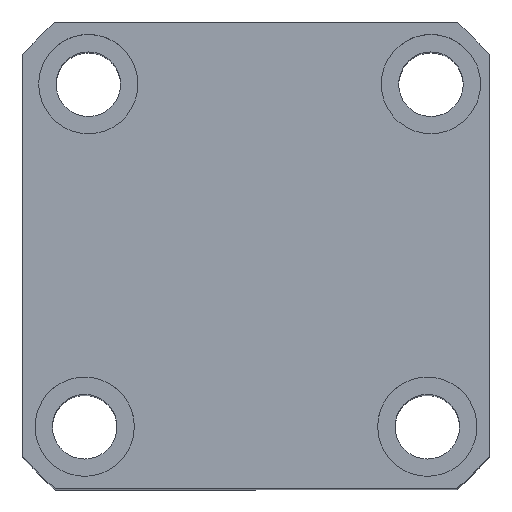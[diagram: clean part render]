
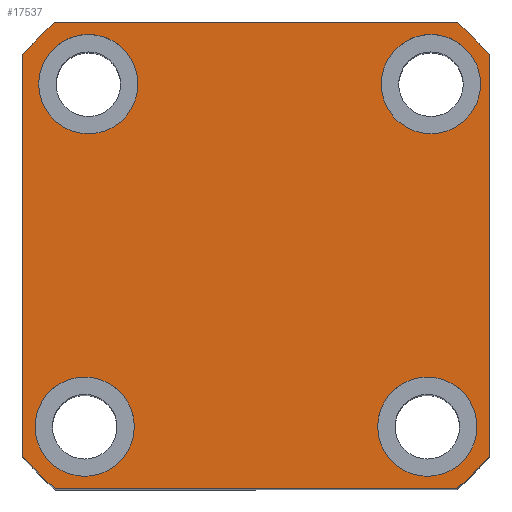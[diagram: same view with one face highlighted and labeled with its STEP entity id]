
A CAD part, top view. The second image highlights one B-rep face of the part: STEP entity #17537.
In plain terms, the highlighted planar face has unit normal (0, 0, 1) as drawn and (0, 0, -1) by its records, which use the part's own axes.
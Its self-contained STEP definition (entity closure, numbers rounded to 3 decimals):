
#70 = AXIS2_PLACEMENT_3D ( 'NONE', #3379, #15541, #5132 ) ;
#771 = VERTEX_POINT ( 'NONE', #9281 ) ;
#806 = PLANE ( 'NONE',  #5293 ) ;
#825 = EDGE_LOOP ( 'NONE', ( #16089, #3850 ) ) ;
#891 = ORIENTED_EDGE ( 'NONE', *, *, #21718, .F. ) ;
#913 = ORIENTED_EDGE ( 'NONE', *, *, #21403, .F. ) ;
#972 = DIRECTION ( 'NONE',  ( -1., 0., 0. ) ) ;
#1097 = AXIS2_PLACEMENT_3D ( 'NONE', #1704, #13831, #3431 ) ;
#1103 = VERTEX_POINT ( 'NONE', #15363 ) ;
#1425 = AXIS2_PLACEMENT_3D ( 'NONE', #2303, #14428, #4030 ) ;
#1433 = VECTOR ( 'NONE', #13603, 1000. ) ;
#1591 = DIRECTION ( 'NONE',  ( 0., 0., 1. ) ) ;
#1598 = LINE ( 'NONE', #11161, #19508 ) ;
#1636 = DIRECTION ( 'NONE',  ( 0., 0., 1. ) ) ;
#1704 = CARTESIAN_POINT ( 'NONE',  ( -34.5, 34.5, 0. ) ) ;
#1800 = EDGE_LOOP ( 'NONE', ( #891, #1976 ) ) ;
#1957 = VERTEX_POINT ( 'NONE', #11453 ) ;
#1976 = ORIENTED_EDGE ( 'NONE', *, *, #19835, .F. ) ;
#2014 = FACE_BOUND ( 'NONE', #8356, .T. ) ;
#2268 = EDGE_CURVE ( 'NONE', #1957, #771, #15100, .T. ) ;
#2303 = CARTESIAN_POINT ( 'NONE',  ( -33.77, -34.5, 0. ) ) ;
#2346 = CIRCLE ( 'NONE', #4297, 10. ) ;
#2529 = CARTESIAN_POINT ( 'NONE',  ( -47., -40.435, 0. ) ) ;
#2558 = FACE_BOUND ( 'NONE', #825, .T. ) ;
#2598 = VECTOR ( 'NONE', #5051, 1000. ) ;
#2632 = CARTESIAN_POINT ( 'NONE',  ( -43.77, -34.5, 0. ) ) ;
#2657 = VERTEX_POINT ( 'NONE', #13055 ) ;
#3379 = CARTESIAN_POINT ( 'NONE',  ( 0., 0., 0. ) ) ;
#3386 = CIRCLE ( 'NONE', #19286, 62. ) ;
#3431 = DIRECTION ( 'NONE',  ( -1., 0., 0. ) ) ;
#3492 = DIRECTION ( 'NONE',  ( 0., 0., -1. ) ) ;
#3776 = CARTESIAN_POINT ( 'NONE',  ( 34.5, 34.5, 0. ) ) ;
#3839 = EDGE_CURVE ( 'NONE', #1103, #2657, #3386, .T. ) ;
#3850 = ORIENTED_EDGE ( 'NONE', *, *, #6003, .F. ) ;
#4030 = DIRECTION ( 'NONE',  ( -1., 0., 0. ) ) ;
#4137 = ORIENTED_EDGE ( 'NONE', *, *, #2268, .F. ) ;
#4297 = AXIS2_PLACEMENT_3D ( 'NONE', #21762, #11345, #972 ) ;
#4403 = VERTEX_POINT ( 'NONE', #13288 ) ;
#4696 = EDGE_CURVE ( 'NONE', #21499, #11157, #4750, .T. ) ;
#4729 = CARTESIAN_POINT ( 'NONE',  ( 47., 40.435, 0. ) ) ;
#4750 = CIRCLE ( 'NONE', #9087, 10. ) ;
#4917 = CARTESIAN_POINT ( 'NONE',  ( 40.435, 47., 0. ) ) ;
#5021 = CARTESIAN_POINT ( 'NONE',  ( 45.23, -34.5, 0. ) ) ;
#5051 = DIRECTION ( 'NONE',  ( -1., 0., 0. ) ) ;
#5132 = DIRECTION ( 'NONE',  ( 1., 0., 0. ) ) ;
#5293 = AXIS2_PLACEMENT_3D ( 'NONE', #7538, #16435, #6039 ) ;
#5531 = AXIS2_PLACEMENT_3D ( 'NONE', #11956, #1591, #13706 ) ;
#5545 = DIRECTION ( 'NONE',  ( -1., 0., 0. ) ) ;
#6000 = DIRECTION ( 'NONE',  ( 0., 0., -1. ) ) ;
#6003 = EDGE_CURVE ( 'NONE', #11157, #21499, #16585, .T. ) ;
#6034 = DIRECTION ( 'NONE',  ( 0., 1., 0. ) ) ;
#6039 = DIRECTION ( 'NONE',  ( 1., 0., 0. ) ) ;
#6303 = CARTESIAN_POINT ( 'NONE',  ( -40.435, -47., 0. ) ) ;
#6625 = ORIENTED_EDGE ( 'NONE', *, *, #18926, .F. ) ;
#6847 = CIRCLE ( 'NONE', #1425, 10. ) ;
#7260 = VERTEX_POINT ( 'NONE', #4917 ) ;
#7325 = EDGE_CURVE ( 'NONE', #17757, #7260, #13554, .T. ) ;
#7538 = CARTESIAN_POINT ( 'NONE',  ( 0., 0., 0. ) ) ;
#7680 = CARTESIAN_POINT ( 'NONE',  ( 47., -40.435, 0. ) ) ;
#7956 = CIRCLE ( 'NONE', #15510, 10. ) ;
#8234 = VECTOR ( 'NONE', #14243, 1000. ) ;
#8356 = EDGE_LOOP ( 'NONE', ( #16380, #4137 ) ) ;
#8634 = AXIS2_PLACEMENT_3D ( 'NONE', #9779, #21945, #11515 ) ;
#9022 = DIRECTION ( 'NONE',  ( 0., 0., 1. ) ) ;
#9087 = AXIS2_PLACEMENT_3D ( 'NONE', #16392, #6000, #18138 ) ;
#9281 = CARTESIAN_POINT ( 'NONE',  ( -44.5, 34.5, 0. ) ) ;
#9304 = CARTESIAN_POINT ( 'NONE',  ( 24.5, 34.5, 0. ) ) ;
#9391 = AXIS2_PLACEMENT_3D ( 'NONE', #13891, #3492, #15643 ) ;
#9494 = CARTESIAN_POINT ( 'NONE',  ( 40.435, -47., 0. ) ) ;
#9539 = EDGE_CURVE ( 'NONE', #15991, #17757, #1598, .T. ) ;
#9779 = CARTESIAN_POINT ( 'NONE',  ( 34.5, 34.5, 0. ) ) ;
#10176 = DIRECTION ( 'NONE',  ( 0., 0., -1. ) ) ;
#10257 = CARTESIAN_POINT ( 'NONE',  ( -47., -47., 0. ) ) ;
#10337 = EDGE_LOOP ( 'NONE', ( #16113, #17189, #13648, #913, #14753, #6625, #15844, #12282 ) ) ;
#10373 = ORIENTED_EDGE ( 'NONE', *, *, #16546, .F. ) ;
#10513 = EDGE_CURVE ( 'NONE', #20635, #17027, #17336, .T. ) ;
#10673 = FACE_OUTER_BOUND ( 'NONE', #10337, .T. ) ;
#11157 = VERTEX_POINT ( 'NONE', #5021 ) ;
#11161 = CARTESIAN_POINT ( 'NONE',  ( 47., 47., 0. ) ) ;
#11345 = DIRECTION ( 'NONE',  ( 0., 0., -1. ) ) ;
#11453 = CARTESIAN_POINT ( 'NONE',  ( -24.5, 34.5, 0. ) ) ;
#11515 = DIRECTION ( 'NONE',  ( -1., 0., 0. ) ) ;
#11665 = EDGE_CURVE ( 'NONE', #16911, #4403, #19731, .T. ) ;
#11956 = CARTESIAN_POINT ( 'NONE',  ( 0., 0., 0. ) ) ;
#12003 = CARTESIAN_POINT ( 'NONE',  ( 0., 0., 0. ) ) ;
#12282 = ORIENTED_EDGE ( 'NONE', *, *, #13611, .F. ) ;
#12494 = CARTESIAN_POINT ( 'NONE',  ( -47., 47., 0. ) ) ;
#12692 = EDGE_CURVE ( 'NONE', #771, #1957, #2346, .T. ) ;
#13055 = CARTESIAN_POINT ( 'NONE',  ( -47., 40.435, 0. ) ) ;
#13288 = CARTESIAN_POINT ( 'NONE',  ( 44.5, 34.5, 0. ) ) ;
#13554 = CIRCLE ( 'NONE', #5531, 62. ) ;
#13603 = DIRECTION ( 'NONE',  ( 1., 0., 0. ) ) ;
#13611 = EDGE_CURVE ( 'NONE', #7260, #1103, #15912, .T. ) ;
#13648 = ORIENTED_EDGE ( 'NONE', *, *, #14895, .F. ) ;
#13706 = DIRECTION ( 'NONE',  ( 1., 0., 0. ) ) ;
#13752 = DIRECTION ( 'NONE',  ( 1., 0., 0. ) ) ;
#13828 = CARTESIAN_POINT ( 'NONE',  ( 25.23, -34.5, 0. ) ) ;
#13831 = DIRECTION ( 'NONE',  ( 0., 0., -1. ) ) ;
#13891 = CARTESIAN_POINT ( 'NONE',  ( 35.23, -34.5, 0. ) ) ;
#13917 = ORIENTED_EDGE ( 'NONE', *, *, #11665, .F. ) ;
#14243 = DIRECTION ( 'NONE',  ( 0., -1., 0. ) ) ;
#14312 = EDGE_LOOP ( 'NONE', ( #13917, #10373 ) ) ;
#14428 = DIRECTION ( 'NONE',  ( 0., 0., -1. ) ) ;
#14753 = ORIENTED_EDGE ( 'NONE', *, *, #10513, .F. ) ;
#14895 = EDGE_CURVE ( 'NONE', #21845, #15991, #15884, .T. ) ;
#15100 = CIRCLE ( 'NONE', #1097, 10. ) ;
#15322 = FACE_BOUND ( 'NONE', #1800, .T. ) ;
#15363 = CARTESIAN_POINT ( 'NONE',  ( -40.435, 47., 0. ) ) ;
#15510 = AXIS2_PLACEMENT_3D ( 'NONE', #20610, #10176, #22333 ) ;
#15541 = DIRECTION ( 'NONE',  ( 0., 0., 1. ) ) ;
#15546 = VERTEX_POINT ( 'NONE', #20898 ) ;
#15643 = DIRECTION ( 'NONE',  ( -1., 0., 0. ) ) ;
#15844 = ORIENTED_EDGE ( 'NONE', *, *, #3839, .F. ) ;
#15884 = CIRCLE ( 'NONE', #70, 62. ) ;
#15912 = LINE ( 'NONE', #20557, #2598 ) ;
#15935 = DIRECTION ( 'NONE',  ( 0., 0., -1. ) ) ;
#15991 = VERTEX_POINT ( 'NONE', #7680 ) ;
#16089 = ORIENTED_EDGE ( 'NONE', *, *, #4696, .F. ) ;
#16113 = ORIENTED_EDGE ( 'NONE', *, *, #7325, .F. ) ;
#16380 = ORIENTED_EDGE ( 'NONE', *, *, #12692, .F. ) ;
#16392 = CARTESIAN_POINT ( 'NONE',  ( 35.23, -34.5, 0. ) ) ;
#16435 = DIRECTION ( 'NONE',  ( 0., 0., 1. ) ) ;
#16546 = EDGE_CURVE ( 'NONE', #4403, #16911, #20493, .T. ) ;
#16585 = CIRCLE ( 'NONE', #9391, 10. ) ;
#16911 = VERTEX_POINT ( 'NONE', #9304 ) ;
#17027 = VERTEX_POINT ( 'NONE', #6303 ) ;
#17189 = ORIENTED_EDGE ( 'NONE', *, *, #9539, .F. ) ;
#17336 = CIRCLE ( 'NONE', #20081, 62. ) ;
#17537 = ADVANCED_FACE ( 'NONE', ( #2558, #15322, #2014, #19932, #10673 ), #806, .F. ) ;
#17757 = VERTEX_POINT ( 'NONE', #4729 ) ;
#18138 = DIRECTION ( 'NONE',  ( -1., 0., 0. ) ) ;
#18926 = EDGE_CURVE ( 'NONE', #2657, #20635, #22085, .T. ) ;
#19194 = VERTEX_POINT ( 'NONE', #2632 ) ;
#19286 = AXIS2_PLACEMENT_3D ( 'NONE', #12003, #1636, #13752 ) ;
#19430 = CARTESIAN_POINT ( 'NONE',  ( 0., 0., 0. ) ) ;
#19508 = VECTOR ( 'NONE', #6034, 1000. ) ;
#19731 = CIRCLE ( 'NONE', #8634, 10. ) ;
#19835 = EDGE_CURVE ( 'NONE', #15546, #19194, #7956, .T. ) ;
#19932 = FACE_BOUND ( 'NONE', #14312, .T. ) ;
#20081 = AXIS2_PLACEMENT_3D ( 'NONE', #19430, #9022, #21181 ) ;
#20135 = AXIS2_PLACEMENT_3D ( 'NONE', #3776, #15935, #5545 ) ;
#20493 = CIRCLE ( 'NONE', #20135, 10. ) ;
#20557 = CARTESIAN_POINT ( 'NONE',  ( -47., 47., 0. ) ) ;
#20610 = CARTESIAN_POINT ( 'NONE',  ( -33.77, -34.5, 0. ) ) ;
#20635 = VERTEX_POINT ( 'NONE', #2529 ) ;
#20898 = CARTESIAN_POINT ( 'NONE',  ( -23.77, -34.5, 0. ) ) ;
#21181 = DIRECTION ( 'NONE',  ( 1., 0., 0. ) ) ;
#21240 = LINE ( 'NONE', #10257, #1433 ) ;
#21403 = EDGE_CURVE ( 'NONE', #17027, #21845, #21240, .T. ) ;
#21499 = VERTEX_POINT ( 'NONE', #13828 ) ;
#21718 = EDGE_CURVE ( 'NONE', #19194, #15546, #6847, .T. ) ;
#21762 = CARTESIAN_POINT ( 'NONE',  ( -34.5, 34.5, 0. ) ) ;
#21845 = VERTEX_POINT ( 'NONE', #9494 ) ;
#21945 = DIRECTION ( 'NONE',  ( 0., 0., -1. ) ) ;
#22085 = LINE ( 'NONE', #12494, #8234 ) ;
#22333 = DIRECTION ( 'NONE',  ( -1., 0., 0. ) ) ;
